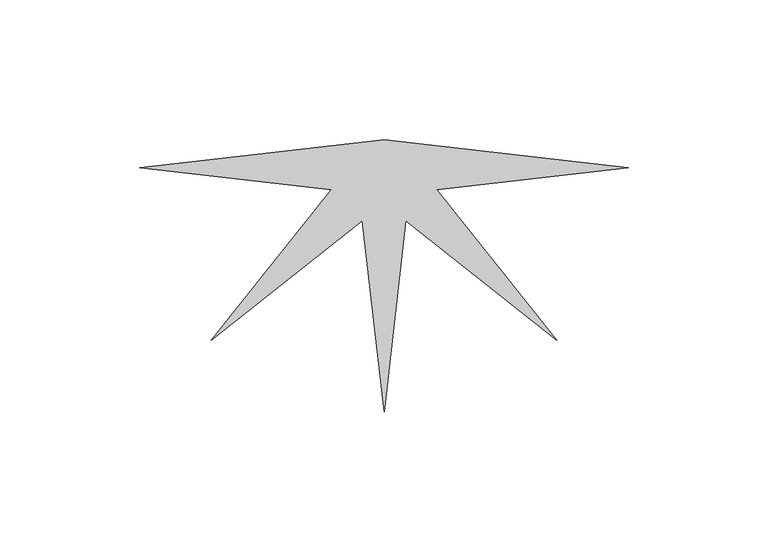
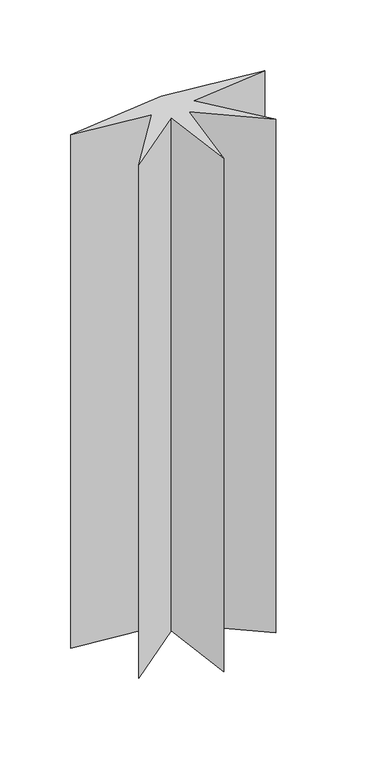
"""IFC4 building model written with IfcOpenShell, lengths in millimetres: member geometry, Импост круглого сечения : Радиус 25 мм 2."""

from ifc_helpers import new_model, si_unit, frame, origin, place, context, project, spatial, polyline, outline, extrude, source, transform, mapped, element, save


def member_bfa8bbc5(model_context):
    return source(origin(), model_context, "Body", "SweptSolid", [
        extrude(outline(polyline([(87.3482793, 0.0), (18.9143973, -7.8345999), (61.7645606, -61.7645606), (7.8345999, -18.9143973), (0.0, -87.3482793), (-7.8345999, -18.9143973), (-61.7645606, -61.7645606), (-18.9143973, -7.8345999), (-87.3482793, 0.0), (0.0, 10.0), (87.3482793, 0.0)])), frame((0.0, 0.0, -488.2361077), z_axis=(0.0, 0.0, 1.0), x_axis=(1.0, 0.0, 0.0)), (0.0, 0.0, 1.0), 488.2361077),
    ])


if __name__ == "__main__":
    model = new_model("IFC4")
    model_context = context("Model", 3, world=origin())
    ifc_project = project(units=[si_unit("LENGTHUNIT", "METRE", prefix="MILLI")], contexts=[model_context])
    site = spatial("IfcSite", under=ifc_project)
    building = spatial("IfcBuilding", under=site)
    placement = place(None, origin())
    member_shape = member_bfa8bbc5(model_context)
    element("IfcMember", 1, ObjectType="Импост круглого сечения : Радиус 25 мм 2", at=placement, inside=building, context=model_context, shape_type="MappedRepresentation", body=[
        mapped(member_shape, transform((0.0, 0.0, 0.0), x_axis=(1.0, 0.0, 0.0), y_axis=(0.0, 1.0, 0.0), z_axis=(0.0, 0.0, 1.0))),
    ])
    save(model, "model.ifc")
